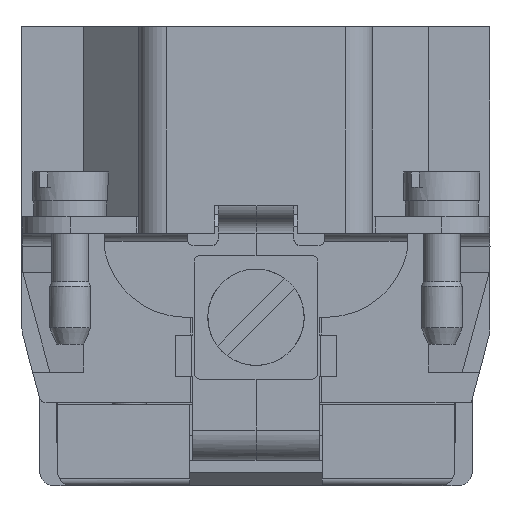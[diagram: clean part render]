
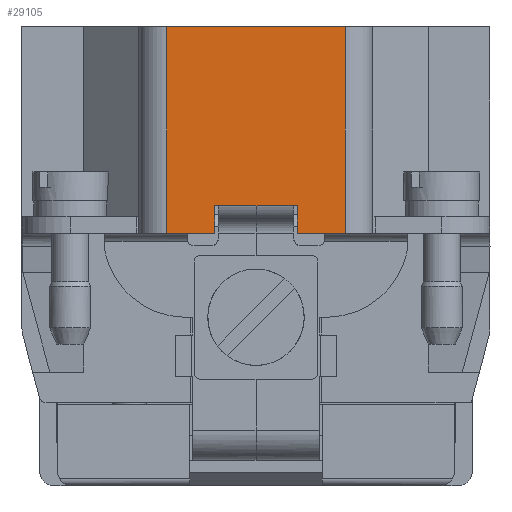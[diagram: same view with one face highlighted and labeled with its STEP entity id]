
A CAD part, left-side view. The second image highlights one B-rep face of the part: STEP entity #29105.
In plain terms, the highlighted planar face has unit normal (-1, 0, 0).
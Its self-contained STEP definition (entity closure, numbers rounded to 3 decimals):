
#18894=FACE_OUTER_BOUND('',#34115,.T.);
#22871=LINE('',#89267,#26606);
#23142=LINE('',#90228,#26877);
#23147=LINE('',#90240,#26882);
#23154=LINE('',#90253,#26889);
#23156=LINE('',#90257,#26891);
#23160=LINE('',#90267,#26895);
#23163=LINE('',#90272,#26898);
#23164=LINE('',#90274,#26899);
#26606=VECTOR('',#72120,1.);
#26877=VECTOR('',#72783,1.);
#26882=VECTOR('',#72792,1.);
#26889=VECTOR('',#72803,1.);
#26891=VECTOR('',#72807,1.);
#26895=VECTOR('',#72815,1.);
#26898=VECTOR('',#72822,1.);
#26899=VECTOR('',#72825,1.);
#29105=ADVANCED_FACE('',(#18894),#31055,.F.);
#31055=PLANE('',#62980);
#34115=EDGE_LOOP('',(#44396,#44397,#44398,#44399,#44400,#44401,#44402,#44403));
#44396=ORIENTED_EDGE('',*,*,#57167,.F.);
#44397=ORIENTED_EDGE('',*,*,#57172,.F.);
#44398=ORIENTED_EDGE('',*,*,#57175,.F.);
#44399=ORIENTED_EDGE('',*,*,#56790,.F.);
#44400=ORIENTED_EDGE('',*,*,#57176,.T.);
#44401=ORIENTED_EDGE('',*,*,#57152,.F.);
#44402=ORIENTED_EDGE('',*,*,#57158,.F.);
#44403=ORIENTED_EDGE('',*,*,#57165,.F.);
#51116=VERTEX_POINT('',#89266);
#51117=VERTEX_POINT('',#89268);
#51334=VERTEX_POINT('',#90227);
#51335=VERTEX_POINT('',#90229);
#51338=VERTEX_POINT('',#90238);
#51343=VERTEX_POINT('',#90252);
#51344=VERTEX_POINT('',#90256);
#51348=VERTEX_POINT('',#90266);
#56790=EDGE_CURVE('',#51116,#51117,#22871,.T.);
#57152=EDGE_CURVE('',#51334,#51335,#23142,.T.);
#57158=EDGE_CURVE('',#51338,#51334,#23147,.T.);
#57165=EDGE_CURVE('',#51343,#51338,#23154,.T.);
#57167=EDGE_CURVE('',#51344,#51343,#23156,.T.);
#57172=EDGE_CURVE('',#51348,#51344,#23160,.T.);
#57175=EDGE_CURVE('',#51117,#51348,#23163,.T.);
#57176=EDGE_CURVE('',#51116,#51335,#23164,.T.);
#62980=AXIS2_PLACEMENT_3D('',#90275,#72826,#72827);
#72120=DIRECTION('',(0.,-1.,0.));
#72783=DIRECTION('',(0.,1.,0.));
#72792=DIRECTION('',(0.,0.,-1.));
#72803=DIRECTION('',(0.,1.,0.));
#72807=DIRECTION('',(0.,0.,1.));
#72815=DIRECTION('',(0.,1.,0.));
#72822=DIRECTION('',(0.,0.,-1.));
#72825=DIRECTION('',(0.,0.,-1.));
#72826=DIRECTION('',(1.,0.,0.));
#72827=DIRECTION('',(0.,1.,0.));
#89266=CARTESIAN_POINT('',(-55.5,6.5,15.));
#89267=CARTESIAN_POINT('',(-55.5,6.5,15.));
#89268=CARTESIAN_POINT('',(-55.5,-6.5,15.));
#90227=CARTESIAN_POINT('',(-55.5,3.,0.));
#90228=CARTESIAN_POINT('',(-55.5,3.,0.));
#90229=CARTESIAN_POINT('',(-55.5,6.5,0.));
#90238=CARTESIAN_POINT('',(-55.5,3.,2.));
#90240=CARTESIAN_POINT('',(-55.5,3.,2.));
#90252=CARTESIAN_POINT('',(-55.5,-3.,2.));
#90253=CARTESIAN_POINT('',(-55.5,-3.,2.));
#90256=CARTESIAN_POINT('',(-55.5,-3.,0.));
#90257=CARTESIAN_POINT('',(-55.5,-3.,0.));
#90266=CARTESIAN_POINT('',(-55.5,-6.5,0.));
#90267=CARTESIAN_POINT('',(-55.5,-6.5,0.));
#90272=CARTESIAN_POINT('',(-55.5,-6.5,15.));
#90274=CARTESIAN_POINT('',(-55.5,6.5,15.));
#90275=CARTESIAN_POINT('',(-55.5,6.5,15.));
